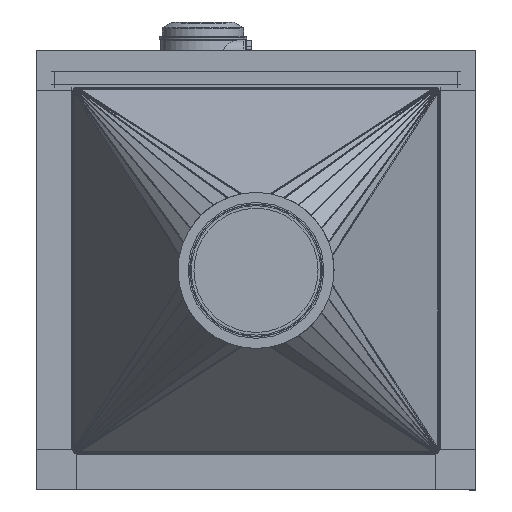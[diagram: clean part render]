
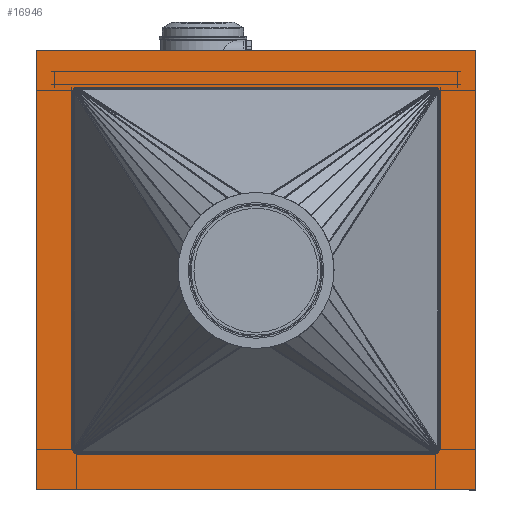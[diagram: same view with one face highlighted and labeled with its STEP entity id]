
A CAD part, left-side view. The second image highlights one B-rep face of the part: STEP entity #16946.
In plain terms, the highlighted planar face has unit normal (-1, 0, 0) as drawn and (0, 0, -1) by its records, which use the part's own axes.
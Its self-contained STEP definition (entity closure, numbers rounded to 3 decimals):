
#422=FACE_BOUND('',#2164,.T.);
#1146=FACE_OUTER_BOUND('',#2163,.T.);
#2163=EDGE_LOOP('',(#12245,#12246,#12247,#12248));
#2164=EDGE_LOOP('',(#12249,#12250,#12251,#12252,#12253,#12254,#12255,#12256));
#3039=CIRCLE('',#18154,3.);
#3041=CIRCLE('',#18158,3.);
#3043=CIRCLE('',#18162,3.);
#3045=CIRCLE('',#18166,3.);
#3840=LINE('',#25518,#5604);
#3846=LINE('',#25533,#5610);
#3850=LINE('',#25545,#5614);
#3853=LINE('',#25554,#5617);
#3935=LINE('',#25817,#5699);
#3938=LINE('',#25822,#5702);
#3940=LINE('',#25826,#5704);
#3941=LINE('',#25828,#5705);
#5604=VECTOR('',#20470,10.);
#5610=VECTOR('',#20484,10.);
#5614=VECTOR('',#20496,10.);
#5617=VECTOR('',#20507,10.);
#5699=VECTOR('',#20763,10.);
#5702=VECTOR('',#20768,10.);
#5704=VECTOR('',#20772,10.);
#5705=VECTOR('',#20775,10.);
#7252=VERTEX_POINT('',#25511);
#7253=VERTEX_POINT('',#25513);
#7254=VERTEX_POINT('',#25517);
#7258=VERTEX_POINT('',#25526);
#7259=VERTEX_POINT('',#25528);
#7262=VERTEX_POINT('',#25538);
#7263=VERTEX_POINT('',#25540);
#7265=VERTEX_POINT('',#25549);
#7358=VERTEX_POINT('',#25814);
#7359=VERTEX_POINT('',#25816);
#7360=VERTEX_POINT('',#25820);
#7361=VERTEX_POINT('',#25824);
#8989=EDGE_CURVE('',#7252,#7253,#3039,.F.);
#8991=EDGE_CURVE('',#7254,#7253,#3840,.T.);
#8996=EDGE_CURVE('',#7258,#7259,#3041,.F.);
#8999=EDGE_CURVE('',#7252,#7259,#3846,.T.);
#9002=EDGE_CURVE('',#7262,#7263,#3043,.F.);
#9005=EDGE_CURVE('',#7258,#7263,#3850,.T.);
#9007=EDGE_CURVE('',#7254,#7265,#3045,.F.);
#9010=EDGE_CURVE('',#7262,#7265,#3853,.T.);
#9140=EDGE_CURVE('',#7359,#7358,#3935,.T.);
#9143=EDGE_CURVE('',#7358,#7360,#3938,.T.);
#9145=EDGE_CURVE('',#7360,#7361,#3940,.T.);
#9146=EDGE_CURVE('',#7361,#7359,#3941,.T.);
#12245=ORIENTED_EDGE('',*,*,#9146,.T.);
#12246=ORIENTED_EDGE('',*,*,#9140,.T.);
#12247=ORIENTED_EDGE('',*,*,#9143,.T.);
#12248=ORIENTED_EDGE('',*,*,#9145,.T.);
#12249=ORIENTED_EDGE('',*,*,#8991,.T.);
#12250=ORIENTED_EDGE('',*,*,#8989,.F.);
#12251=ORIENTED_EDGE('',*,*,#8999,.T.);
#12252=ORIENTED_EDGE('',*,*,#8996,.F.);
#12253=ORIENTED_EDGE('',*,*,#9005,.T.);
#12254=ORIENTED_EDGE('',*,*,#9002,.F.);
#12255=ORIENTED_EDGE('',*,*,#9010,.T.);
#12256=ORIENTED_EDGE('',*,*,#9007,.F.);
#16251=PLANE('',#18258);
#16946=ADVANCED_FACE('',(#1146,#422),#16251,.F.);
#18154=AXIS2_PLACEMENT_3D('',#25514,#20465,#20466);
#18158=AXIS2_PLACEMENT_3D('',#25529,#20478,#20479);
#18162=AXIS2_PLACEMENT_3D('',#25541,#20490,#20491);
#18166=AXIS2_PLACEMENT_3D('',#25550,#20501,#20502);
#18258=AXIS2_PLACEMENT_3D('',#25829,#20776,#20777);
#20465=DIRECTION('center_axis',(0.,0.,1.));
#20466=DIRECTION('ref_axis',(0.707,0.707,0.));
#20470=DIRECTION('',(0.,1.,0.));
#20478=DIRECTION('center_axis',(0.,0.,1.));
#20479=DIRECTION('ref_axis',(-0.707,0.707,0.));
#20484=DIRECTION('',(-1.,0.,0.));
#20490=DIRECTION('center_axis',(0.,0.,1.));
#20491=DIRECTION('ref_axis',(-0.707,-0.707,0.));
#20496=DIRECTION('',(0.,-1.,0.));
#20501=DIRECTION('center_axis',(0.,0.,1.));
#20502=DIRECTION('ref_axis',(0.707,-0.707,0.));
#20507=DIRECTION('',(1.,0.,0.));
#20763=DIRECTION('',(0.,-1.,0.));
#20768=DIRECTION('',(-1.,0.,0.));
#20772=DIRECTION('',(0.,1.,0.));
#20775=DIRECTION('',(1.,0.,0.));
#20776=DIRECTION('center_axis',(0.,0.,1.));
#20777=DIRECTION('ref_axis',(1.,0.,0.));
#25511=CARTESIAN_POINT('',(152.5,155.5,0.));
#25513=CARTESIAN_POINT('',(155.5,152.5,0.));
#25514=CARTESIAN_POINT('Origin',(152.5,152.5,0.));
#25517=CARTESIAN_POINT('',(155.5,-152.5,0.));
#25518=CARTESIAN_POINT('',(155.5,77.75,0.));
#25526=CARTESIAN_POINT('',(-155.5,152.5,0.));
#25528=CARTESIAN_POINT('',(-152.5,155.5,0.));
#25529=CARTESIAN_POINT('Origin',(-152.5,152.5,0.));
#25533=CARTESIAN_POINT('',(-77.75,155.5,0.));
#25538=CARTESIAN_POINT('',(-152.5,-155.5,0.));
#25540=CARTESIAN_POINT('',(-155.5,-152.5,0.));
#25541=CARTESIAN_POINT('Origin',(-152.5,-152.5,0.));
#25545=CARTESIAN_POINT('',(-155.5,-77.75,0.));
#25549=CARTESIAN_POINT('',(152.5,-155.5,0.));
#25550=CARTESIAN_POINT('Origin',(152.5,-152.5,0.));
#25554=CARTESIAN_POINT('',(77.75,-155.5,0.));
#25814=CARTESIAN_POINT('',(186.5,-186.5,0.));
#25816=CARTESIAN_POINT('',(186.5,186.5,0.));
#25817=CARTESIAN_POINT('',(186.5,186.5,0.));
#25820=CARTESIAN_POINT('',(-186.5,-186.5,0.));
#25822=CARTESIAN_POINT('',(186.5,-186.5,0.));
#25824=CARTESIAN_POINT('',(-186.5,186.5,0.));
#25826=CARTESIAN_POINT('',(-186.5,-186.5,0.));
#25828=CARTESIAN_POINT('',(-186.5,186.5,0.));
#25829=CARTESIAN_POINT('Origin',(0.,0.,0.));
